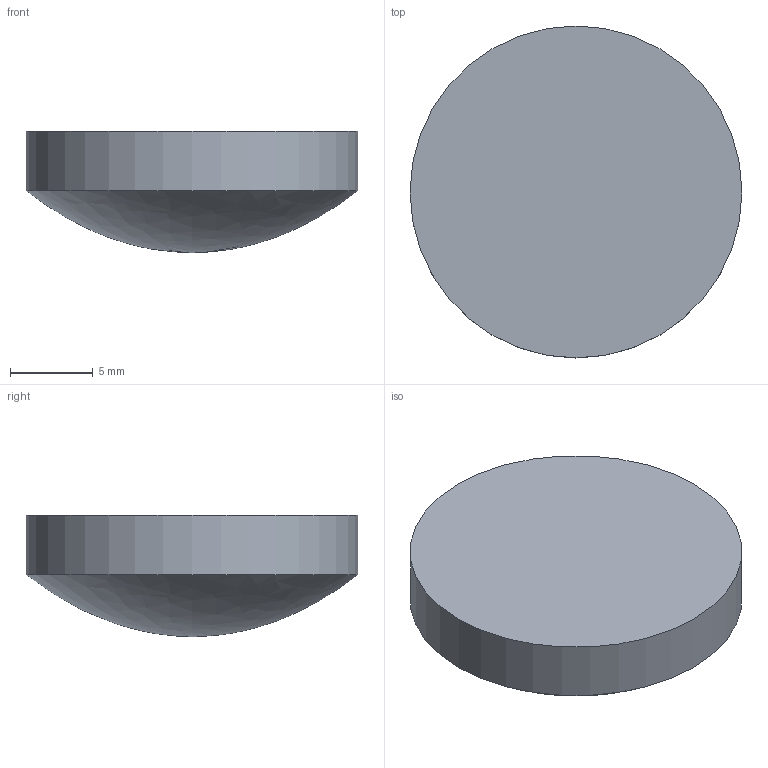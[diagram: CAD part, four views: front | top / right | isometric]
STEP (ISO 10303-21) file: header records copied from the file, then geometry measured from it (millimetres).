
FILE_DESCRIPTION(/* description */ (''),/* implementation_level */ '2;1');
FILE_NAME(/* name */ 'D:\AGL CAD化\780\ZMX⇒STPファイル\Imported Components\AGL-20-G※-18P\AGL-20-G※-18P.stp',/* time_stamp */ '2016-12-07T17:55:08+09:00',/* author */ ('r.osada'),/* organization */ (''),/* preprocessor_version */ 'ST-DEVELOPER v15.6',/* originating_system */ 'Autodesk Inventor 2015',/* authorisation */ '');
FILE_SCHEMA (('AUTOMOTIVE_DESIGN { 1 0 10303 214 3 1 1 }'));
Length unit declared in the file: millimetre
Products named in the file (1): AGL-20-G※-18P
Bounding box: 20 x 20 x 7.3 mm (x, y, z)
Volume: 1716.1 mm3; surface area: 893.7 mm2
Topology: 1 solids, 1 shells, 3 faces, 6 edges, 4 vertices
Faces by surface type: cylinder 1, bspline 1, plane 1
Full cylindrical faces by diameter (mm): 20 x1
Entity records: 215 total; most frequent: CARTESIAN_POINT 144, DIRECTION 10, ORIENTED_EDGE 6, AXIS2_PLACEMENT_3D 5, EDGE_LOOP 4, FACE_OUTER_BOUND 3, VERTEX_POINT 3, EDGE_CURVE 3
